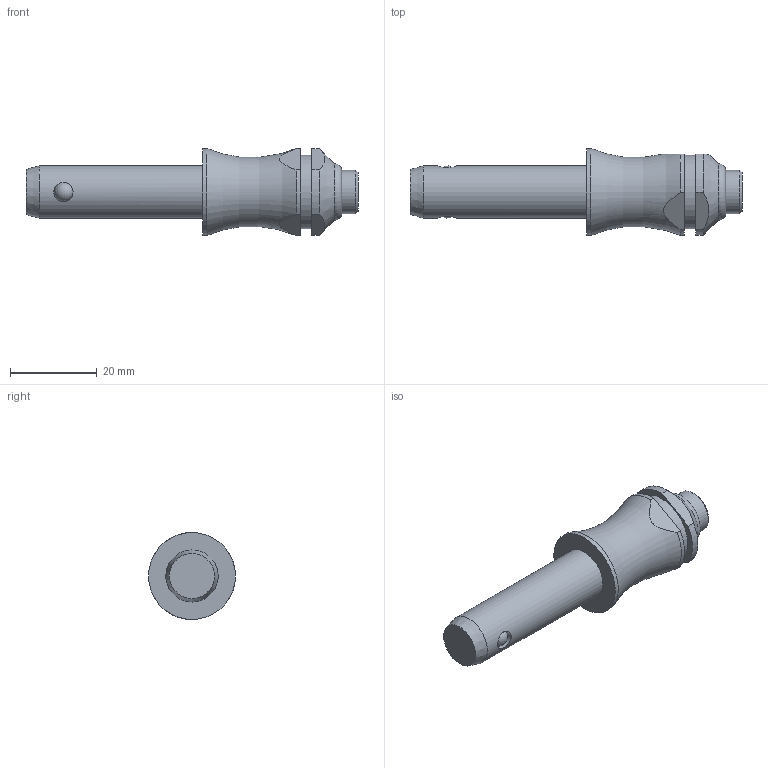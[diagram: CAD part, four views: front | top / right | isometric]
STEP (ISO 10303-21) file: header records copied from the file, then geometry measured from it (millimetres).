
FILE_DESCRIPTION( ( 'STEP AP203' ), '1' );
FILE_NAME( 'C:/Temp/Ganter_Step_05_03_2020/data/3_1/gn113_3/Stainless Steel-Ball lock pin GN 113.3-12-30 (activated).stp', '2020-03-12T08:18:41', ( 'License CC BY-ND 4.0' ), ( 'CADENAS' ), ' ', 'PARTsolutions', ' ' );
FILE_SCHEMA( ( 'CONFIG_CONTROL_DESIGN' ) );
Length unit declared in the file: millimetre
Products named in the file (1): _Stainless Steel-Ball lock pin GN 113.3-12-30 (activated)
Bounding box: 76.35 x 20 x 20 mm (x, y, z)
Volume: 12197 mm3; surface area: 4047.4 mm2
Topology: 1 solids, 1 shells, 30 faces, 72 edges, 45 vertices
Faces by surface type: cylinder 12, plane 11, cone 3, torus 2, sphere 2
Full cylindrical faces by diameter (mm): 4.4 x2, 10 x1, 12 x1, 17 x1, 20 x1
Entity records: 1010 total; most frequent: CARTESIAN_POINT 360, DIRECTION 130, ORIENTED_EDGE 102, AXIS2_PLACEMENT_3D 56, EDGE_CURVE 51, EDGE_LOOP 46, VERTEX_POINT 40, FACE_OUTER_BOUND 38
